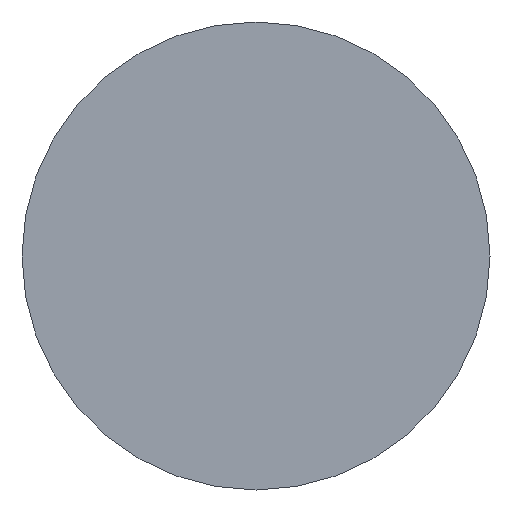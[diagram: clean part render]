
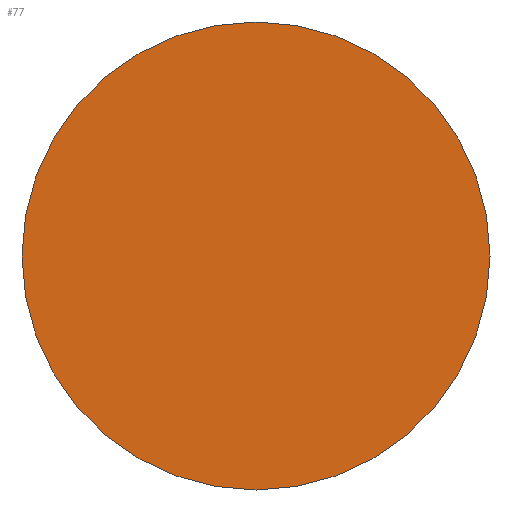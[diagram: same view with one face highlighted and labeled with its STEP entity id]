
A CAD part, left-side view. The second image highlights one B-rep face of the part: STEP entity #77.
In plain terms, the highlighted free-form (B-spline) face has degree [1, 1] with [2, 2] control points.
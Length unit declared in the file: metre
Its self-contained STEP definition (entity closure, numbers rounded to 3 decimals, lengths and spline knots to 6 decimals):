
#77 = ADVANCED_FACE( '', ( #127 ), #128, .T. );
#127 = FACE_OUTER_BOUND( '', #227, .T. );
#128 = B_SPLINE_SURFACE_WITH_KNOTS( '', 1, 1, ( ( #228, #229 ), ( #230, #231 ) ), .UNSPECIFIED., .F., .F., .F., ( 2, 2 ), ( 2, 2 ), ( 0., 1. ), ( 0., 1. ), .UNSPECIFIED. );
#227 = EDGE_LOOP( '', ( #807, #808 ) );
#228 = CARTESIAN_POINT( '', ( 0., -0.015686, -0.015686 ) );
#229 = CARTESIAN_POINT( '', ( 0., 0.015686, -0.015686 ) );
#230 = CARTESIAN_POINT( '', ( 0., -0.015686, 0.015686 ) );
#231 = CARTESIAN_POINT( '', ( 0., 0.015686, 0.015686 ) );
#807 = ORIENTED_EDGE( '', *, *, #1083, .T. );
#808 = ORIENTED_EDGE( '', *, *, #1084, .T. );
#1083 = EDGE_CURVE( '', #1177, #1178, #1179, .F. );
#1084 = EDGE_CURVE( '', #1178, #1177, #1180, .F. );
#1177 = VERTEX_POINT( '', #1323 );
#1178 = VERTEX_POINT( '', #1324 );
#1179 = CIRCLE( '', #1325, 0.0155 );
#1180 = CIRCLE( '', #1326, 0.0155 );
#1323 = CARTESIAN_POINT( '', ( 0., 0., 0.0155 ) );
#1324 = CARTESIAN_POINT( '', ( 0., 0., -0.0155 ) );
#1325 = AXIS2_PLACEMENT_3D( '', #1691, #1692, #1693 );
#1326 = AXIS2_PLACEMENT_3D( '', #1694, #1695, #1696 );
#1691 = CARTESIAN_POINT( '', ( 0., 0., 0. ) );
#1692 = DIRECTION( '', ( 1., 0., 0. ) );
#1693 = DIRECTION( '', ( 0., 0., -1. ) );
#1694 = CARTESIAN_POINT( '', ( 0., 0., 0. ) );
#1695 = DIRECTION( '', ( 1., 0., 0. ) );
#1696 = DIRECTION( '', ( 0., 0., -1. ) );
